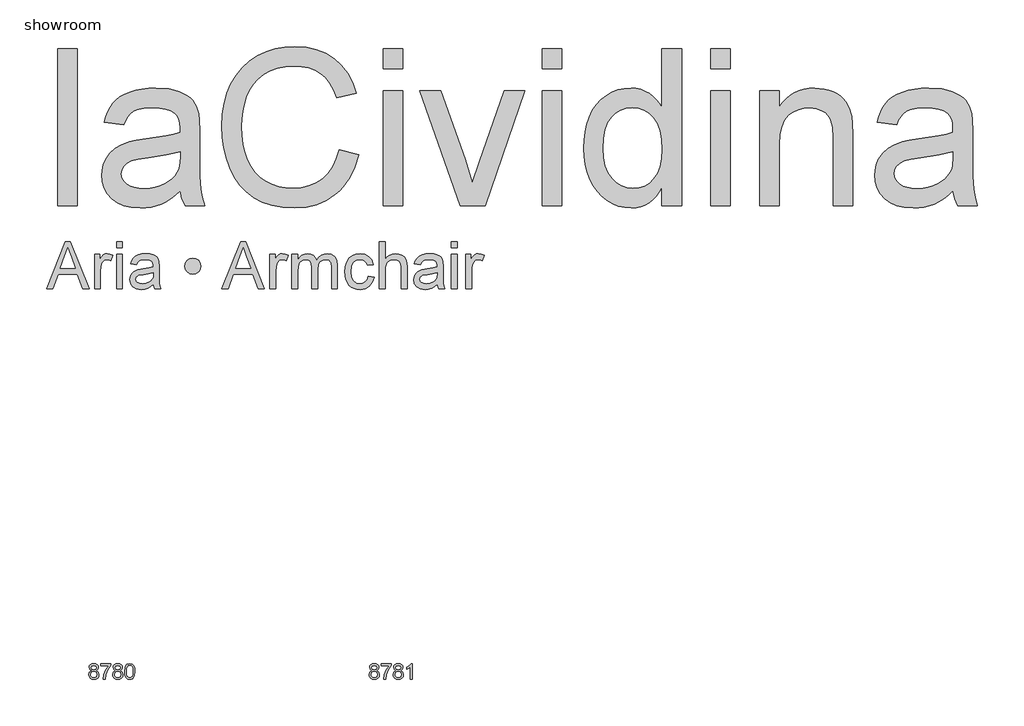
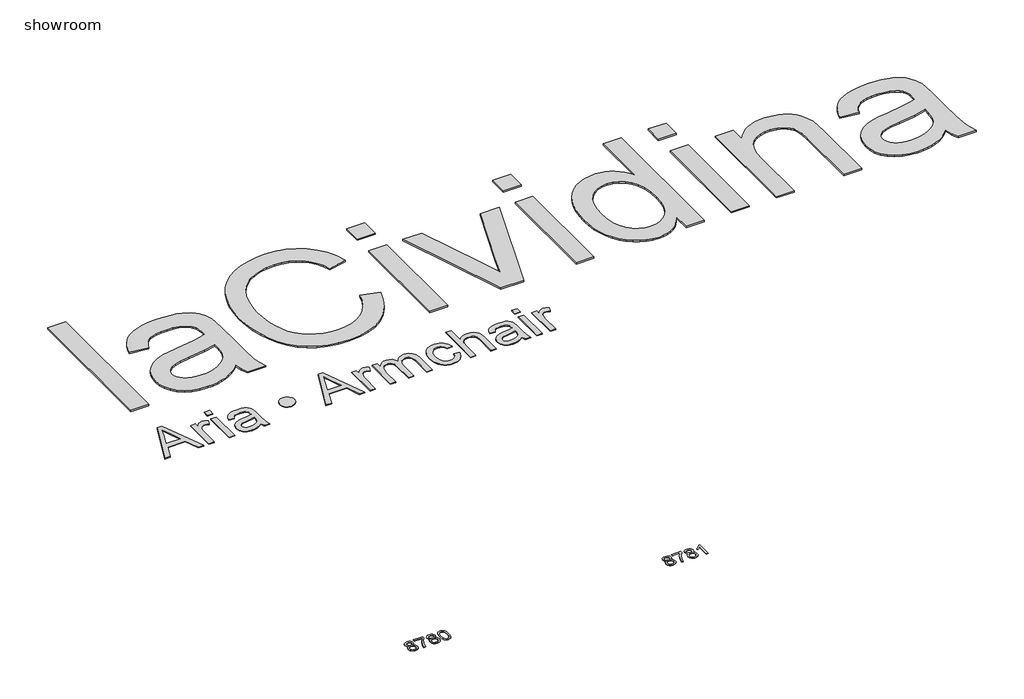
# One storey, incomplete: 4 proxies.
"""IFC4 building model written with IfcOpenShell, lengths in millimetres."""

from ifc_helpers import new_model, si_unit, origin, origin_with_axes, place, context, project, spatial, polyline, outline, extrude, element, save

model = new_model("IFC4")

# Units and contexts
model_context = context("Model", 3, world=origin())
ifc_project = project(units=[si_unit("LENGTHUNIT", "METRE", prefix="MILLI")], contexts=[model_context])

# Site, building, storey
site = spatial("IfcSite", under=ifc_project)
building = spatial("IfcBuilding", under=site)
storey = spatial("IfcBuildingStorey", under=building, Name="showroom", Elevation=0.0)

# Proxies
placement = place(None, origin())
element("IfcBuildingElementProxy", 1, Name="1000mm Arial", ObjectType="1000mm Arial", at=placement, inside=storey, context=model_context, shape_type="SweptSolid", body=[
    extrude(outline(polyline([(-1962.5649368, 4693.0029502), (-1962.5649368, 5697.5660517), (-1836.9945492, 5697.5660517), (-1836.9945492, 4693.0029502), (-1962.5649368, 4693.0029502)])), origin_with_axes(), (0.0, 0.0, 1.0), 10.0),
    extrude(outline(polyline([(-1177.7500138, 4787.180741), (-1207.5254628, 4759.2370378), (-1237.7454358, 4735.7385753), (-1268.409933, 4716.6853537), (-1299.5189542, 4702.0773728), (-1331.4250531, 4691.2401823), (-1364.4807832, 4683.499332), (-1398.6861445, 4678.8548218), (-1434.0411371, 4677.3066518), (-1489.9515362, 4681.031457), (-1538.9794762, 4692.2058726), (-1581.1249573, 4710.8298986), (-1616.3879794, 4736.903535), (-1644.2320479, 4768.7713128), (-1664.1206683, 4804.7777631), (-1676.0538405, 4844.9228858), (-1680.0315645, 4889.206681), (-1674.0228253, 4941.2619833), (-1666.5119012, 4965.4962097), (-1655.9966075, 4988.5348197), (-1628.1908601, 5029.0018391), (-1592.8435317, 5060.6396907), (-1551.3035231, 5084.5520204), (-1504.9197348, 5101.8424742), (-1459.7315631, 5111.4687197), (-1396.2719189, 5120.7270833), (-1267.8811026, 5140.592711), (-1218.3090038, 5151.8131119), (-1178.4857778, 5163.891904), (-1177.7500138, 5191.8509357), (-1179.9113205, 5222.2931708), (-1186.3952407, 5247.8916263), (-1197.2017743, 5268.6463022), (-1212.3309213, 5284.5571985), (-1238.4811998, 5300.4374379), (-1270.3336493, 5311.7804661), (-1307.8882696, 5318.586283), (-1351.1450609, 5320.8548887), (-1391.3668257, 5319.3450396), (-1425.9477332, 5314.8154926), (-1454.8877835, 5307.2662475), (-1478.1869765, 5296.6973043), (-1497.3321687, 5282.2809286), (-1513.8102164, 5263.1893859), (-1527.6211196, 5239.4226762), (-1538.7648784, 5210.9807994), (-1664.3352661, 5226.6770979), (-1654.7779984, 5262.8521608), (-1642.5382579, 5295.3484037), (-1627.6160444, 5324.1658266), (-1610.0113581, 5349.3044296), (-1588.9654423, 5371.2700504), (-1563.7195404, 5390.5685267), (-1534.2736524, 5407.1998586), (-1500.6277782, 5421.164046), (-1463.4640325, 5432.2158343), (-1423.4645297, 5440.1099688), (-1380.6292699, 5444.8464494), (-1334.9582531, 5446.4252763), (-1250.0694827, 5440.8457327), (-1214.2239808, 5433.8713033), (-1182.7777344, 5424.107102), (-1132.0406759, 5398.9378421), (-1112.4892807, 5384.2148981), (-1096.8159749, 5368.0664114), (-1073.4554682, 5329.8986544), (-1058.3109927, 5282.8404158), (-1053.7124678, 5239.4303404), (-1052.1796261, 5172.9663266), (-1052.1796261, 5016.739106), (-1050.5854708, 4880.6534246), (-1045.8030049, 4798.5850828), (-1036.3607003, 4744.6597137), (-1020.7870292, 4693.0029502), (-1146.3574169, 4693.0029502), (-1166.4682993, 4736.6582803), (-1177.7500138, 4787.180741)]), holes=[polyline([(-1177.7500138, 5038.3215164), (-1262.117618, 5017.4135563), (-1380.3303658, 4999.8165342), (-1445.4761358, 4990.1902887), (-1488.3650451, 4979.4603971), (-1516.4773609, 4965.542195), (-1537.2933504, 4946.3510176), (-1550.1692203, 4923.3583929), (-1554.4611769, 4898.0358489), (-1552.1235934, 4878.5227747), (-1545.1108428, 4860.6958264), (-1533.4229253, 4844.5550038), (-1517.0598407, 4830.1003071), (-1496.1748733, 4818.1901275), (-1470.9213071, 4809.6828564), (-1441.2991423, 4804.5784937), (-1407.3083788, 4802.8770394), (-1372.6048439, 4804.7547705), (-1339.8633463, 4810.3879635), (-1309.0838861, 4819.7766186), (-1280.2664631, 4832.9207357), (-1254.2694688, 4848.7319973), (-1231.9512944, 4866.1220858), (-1213.31194, 4885.0910012), (-1198.3514055, 4905.6387434), (-1189.6601934, 4924.0328432), (-1183.4521847, 4946.3510176), (-1178.4857778, 5002.7595902), (-1177.7500138, 5038.3215164)])]), origin_with_axes(), (0.0, 0.0, 1.0), 10.0),
    extrude(outline(polyline([(-157.4906138, 5050.0937402), (-31.9202262, 5017.7201246), (-56.7675892, 4939.6295069), (-89.8616404, 4871.395061), (-131.2023796, 4813.0167869), (-154.9652572, 4787.5237143), (-180.7898069, 4764.4946846), (-237.5049478, 4726.3499202), (-300.228828, 4699.10366), (-368.9614474, 4682.7559038), (-443.7028061, 4677.3066518), (-520.2759105, 4681.4299958), (-589.3534193, 4693.8000279), (-650.9353325, 4714.416748), (-705.02165, 4743.2801562), (-752.3558, 4779.9610568), (-793.6812108, 4824.0302542), (-828.9978824, 4875.4877482), (-858.3058147, 4934.3335391), (-881.321432, 4998.0231095), (-897.7611586, 5064.0119424), (-907.6249946, 5132.3000377), (-910.91294, 5202.8873955), (-907.195799, 5278.6251013), (-896.044376, 5349.3657433), (-877.458671, 5415.1093215), (-851.4386841, 5475.855836), (-818.566895, 5530.6012754), (-779.4257835, 5578.3416284), (-734.0153497, 5619.0768952), (-682.3355936, 5652.8070756), (-626.1416189, 5679.2562582), (-567.1885291, 5698.1485315), (-505.4763244, 5709.4838955), (-441.0050048, 5713.2623502), (-369.1837094, 5708.3725853), (-303.3251681, 5693.7032908), (-243.4293808, 5669.2544665), (-189.4963474, 5635.0261125), (-142.4151163, 5591.9226054), (-103.0747354, 5540.8483218), (-71.4752048, 5481.8032615), (-47.6165246, 5414.7874248), (-173.1869123, 5384.8663558), (-192.9605695, 5434.2468495), (-216.7196151, 5476.4383158), (-244.4640489, 5511.4407548), (-276.193871, 5539.2541665), (-312.0930223, 5560.4457022), (-352.345444, 5575.5825135), (-396.9511359, 5584.6646002), (-445.9100981, 5587.6919625), (-502.2420286, 5584.3350393), (-553.7608363, 5574.2642697), (-600.4665213, 5557.4796536), (-642.3590835, 5533.9811912), (-678.9096925, 5504.8265431), (-709.5895181, 5471.07337), (-734.3985602, 5432.721672), (-753.3368187, 5389.7714491), (-767.3393271, 5344.1694101), (-777.3411189, 5297.862264), (-783.3421939, 5250.8500107), (-785.3425523, 5203.1326502), (-782.9743119, 5143.167885), (-775.8695909, 5087.1271944), (-764.0283892, 5035.0105784), (-747.4507068, 4986.818037), (-725.8682964, 4943.5075963), (-699.0129107, 4906.0372823), (-666.8845498, 4874.4070949), (-629.4832137, 4848.6170342), (-588.6253196, 4828.6057865), (-546.1272849, 4814.3120381), (-501.9891097, 4805.7357891), (-456.2107939, 4802.8770394), (-401.6186387, 4806.7704572), (-351.3950821, 4818.4507106), (-305.5401243, 4837.9177995), (-264.0537651, 4865.171724), (-227.9170233, 4900.0898567), (-198.1109175, 4942.5495703), (-174.6354477, 4992.5508648), (-157.4906138, 5050.0937402)])), origin_with_axes(), (0.0, 0.0, 1.0), 10.0),
    extrude(outline(polyline([(125.0427585, 4693.0029502), (125.0427585, 5430.7289779), (250.6131461, 5430.7289779), (250.6131461, 4693.0029502), (125.0427585, 4693.0029502)])), origin_with_axes(), (0.0, 0.0, 1.0), 10.0),
    extrude(outline(polyline([(125.0427585, 5571.995664), (125.0427585, 5697.5660517), (250.6131461, 5697.5660517), (250.6131461, 5571.995664), (125.0427585, 5571.995664)])), origin_with_axes(), (0.0, 0.0, 1.0), 10.0),
    extrude(outline(polyline([(619.9666693, 4693.0029502), (360.4872354, 5430.7289779), (493.415263, 5430.7289779), (650.6235022, 4988.7800743), (697.9576523, 4840.1557483), (744.3107837, 4980.4414158), (902.5000416, 5430.7289779), (1035.4280692, 5430.7289779), (779.1369459, 4693.0029502), (619.9666693, 4693.0029502)])), origin_with_axes(), (0.0, 0.0, 1.0), 10.0),
    extrude(outline(polyline([(1145.3021584, 4693.0029502), (1145.3021584, 5430.7289779), (1270.8725461, 5430.7289779), (1270.8725461, 4693.0029502), (1145.3021584, 4693.0029502)])), origin_with_axes(), (0.0, 0.0, 1.0), 10.0),
    extrude(outline(polyline([(1145.3021584, 5571.995664), (1145.3021584, 5697.5660517), (1270.8725461, 5697.5660517), (1270.8725461, 5571.995664), (1145.3021584, 5571.995664)])), origin_with_axes(), (0.0, 0.0, 1.0), 10.0),
    extrude(outline(polyline([(1914.420783, 4693.0029502), (1914.420783, 4811.4609527), (1896.6283236, 4780.0185384), (1876.8508342, 4752.768446), (1855.088315, 4729.7106756), (1831.3407657, 4710.845227), (1805.6081866, 4696.1721003), (1777.8905775, 4685.6912956), (1748.1879385, 4679.4028127), (1716.5002696, 4677.3066518), (1675.0522315, 4680.3416782), (1635.320976, 4689.4467576), (1597.3065031, 4704.6218899), (1561.008813, 4725.8670751), (1527.5622082, 4752.546184), (1498.1009918, 4784.0230872), (1472.6251636, 4820.2977848), (1451.1347237, 4861.3702767), (1434.0741962, 4906.4588137), (1421.8881051, 4954.7816466), (1414.5764505, 5006.3387754), (1412.1392322, 5061.1302001), (1414.3848453, 5114.9176134), (1421.1216843, 5166.1605097), (1432.3497494, 5214.8588888), (1448.0690404, 5261.0127508), (1468.2718933, 5303.273195), (1492.9506439, 5340.2913207), (1522.105292, 5372.0671281), (1555.7358377, 5398.600617), (1592.6543288, 5419.5239054), (1631.6728129, 5434.4691115), (1672.79129, 5443.4362351), (1716.0097603, 5446.4252763), (1747.616955, 5444.2869622), (1777.4460535, 5437.87202), (1805.4970556, 5427.1804495), (1831.7699614, 5412.2122508), (1855.973531, 5393.8258152), (1877.8165245, 5372.8795341), (1897.2989418, 5349.3734075), (1914.420783, 5323.3074353), (1914.420783, 5697.5660517), (2039.9911707, 5697.5660517), (2039.9911707, 4693.0029502), (1914.420783, 4693.0029502)]), holes=[polyline([(1537.7096199, 5061.6207094), (1541.2504841, 5000.728575), (1551.8730767, 4948.0371434), (1569.5773978, 4903.5464146), (1594.3634472, 4867.2563886), (1623.9626194, 4839.0904233), (1656.1063087, 4818.9718767), (1690.7945152, 4806.9007488), (1728.0272388, 4802.8770394), (1765.4362392, 4806.7168078), (1799.917512, 4818.2361127), (1831.4710573, 4837.4349544), (1860.096875, 4864.3133326), (1883.8635848, 4899.0858454), (1900.839806, 4941.9670905), (1911.0255387, 4992.9570678), (1914.420783, 5052.0557775), (1910.9642251, 5116.8489939), (1900.5945513, 5172.4145036), (1883.3117618, 5218.7523066), (1859.1158564, 5255.8624028), (1829.8615736, 5284.2966154), (1797.4036517, 5304.6067672), (1761.7420908, 5316.7928583), (1722.8768908, 5320.8548887), (1684.9084033, 5316.9538067), (1650.2201968, 5305.2505607), (1618.8122715, 5285.7451507), (1590.6846272, 5258.4375768), (1567.5080615, 5222.7300307), (1550.9533718, 5178.024704), (1541.0205579, 5124.3215969), (1537.7096199, 5061.6207094)])]), origin_with_axes(), (0.0, 0.0, 1.0), 10.0),
    extrude(outline(polyline([(2228.3467522, 4693.0029502), (2228.3467522, 5430.7289779), (2353.9171399, 5430.7289779), (2353.9171399, 4693.0029502), (2228.3467522, 4693.0029502)])), origin_with_axes(), (0.0, 0.0, 1.0), 10.0),
    extrude(outline(polyline([(2228.3467522, 5571.995664), (2228.3467522, 5697.5660517), (2353.9171399, 5697.5660517), (2353.9171399, 5571.995664), (2228.3467522, 5571.995664)])), origin_with_axes(), (0.0, 0.0, 1.0), 10.0),
    extrude(outline(polyline([(2542.2727214, 4693.0029502), (2542.2727214, 5430.7289779), (2667.8431091, 5430.7289779), (2667.8431091, 5327.7220192), (2688.559464, 5355.5430951), (2711.4677824, 5379.6546942), (2736.5680643, 5400.0568165), (2763.8603099, 5416.7494621), (2793.3445189, 5429.7326308), (2825.0206916, 5439.0063228), (2858.8888277, 5444.570538), (2894.9489275, 5446.4252763), (2956.8450732, 5440.4471939), (2985.8387729, 5432.9745909), (3013.5295572, 5422.5129467), (3038.8674297, 5409.6217484), (3060.8023936, 5394.8604834), (3079.3344491, 5378.2291515), (3094.4635962, 5359.7277528), (3117.3029367, 5317.2067255), (3132.110187, 5267.389372), (3137.076594, 5219.7486536), (3138.7320629, 5145.9883136), (3138.7320629, 4693.0029502), (3013.1616753, 4693.0029502), (3013.1616753, 5129.0657418), (3009.544169, 5193.996914), (2998.6916501, 5240.1661044), (2990.0694158, 5257.6328349), (2978.6727382, 5273.2448271), (2964.5016172, 5287.0020809), (2947.5560528, 5298.9045963), (2907.6715131, 5315.3673156), (2861.3490386, 5320.8548887), (2823.2196026, 5317.7738769), (2787.8032964, 5308.5308418), (2755.1001198, 5293.1257833), (2725.110073, 5271.5587013), (2700.0557763, 5241.3770493), (2682.1598501, 5200.1282806), (2671.4222944, 5147.8123952), (2667.8431091, 5084.4293931), (2667.8431091, 4693.0029502), (2542.2727214, 4693.0029502)])), origin_with_axes(), (0.0, 0.0, 1.0), 10.0),
    extrude(outline(polyline([(3782.2802998, 4787.180741), (3752.5048509, 4759.2370378), (3722.2848778, 4735.7385753), (3691.6203806, 4716.6853537), (3660.5113594, 4702.0773728), (3628.6052606, 4691.2401823), (3595.5495305, 4683.499332), (3561.3441691, 4678.8548218), (3525.9891765, 4677.3066518), (3470.0787775, 4681.031457), (3421.0508374, 4692.2058726), (3378.9053563, 4710.8298986), (3343.6423343, 4736.903535), (3315.7982657, 4768.7713128), (3295.9096454, 4804.7777631), (3283.9764732, 4844.9228858), (3279.9987491, 4889.206681), (3286.0074883, 4941.2619833), (3293.5184124, 4965.4962097), (3304.0337061, 4988.5348197), (3331.8394536, 5029.0018391), (3367.1867819, 5060.6396907), (3408.7267906, 5084.5520204), (3455.1105788, 5101.8424742), (3500.2987505, 5111.4687197), (3563.7583947, 5120.7270833), (3692.149211, 5140.592711), (3741.7213099, 5151.8131119), (3781.5445358, 5163.891904), (3782.2802998, 5191.8509357), (3780.1189931, 5222.2931708), (3773.6350729, 5247.8916263), (3762.8285393, 5268.6463022), (3747.6993923, 5284.5571985), (3721.5491138, 5300.4374379), (3689.6966644, 5311.7804661), (3652.142044, 5318.586283), (3608.8852528, 5320.8548887), (3568.663488, 5319.3450396), (3534.0825804, 5314.8154926), (3505.1425301, 5307.2662475), (3481.8433371, 5296.6973043), (3462.6981449, 5282.2809286), (3446.2200972, 5263.1893859), (3432.409194, 5239.4226762), (3421.2654352, 5210.9807994), (3295.6950475, 5226.6770979), (3305.2523152, 5262.8521608), (3317.4920558, 5295.3484037), (3332.4142692, 5324.1658266), (3350.0189555, 5349.3044296), (3371.0648713, 5371.2700504), (3396.3107732, 5390.5685267), (3425.7566613, 5407.1998586), (3459.4025354, 5421.164046), (3496.5662811, 5432.2158343), (3536.5657839, 5440.1099688), (3579.4010437, 5444.8464494), (3625.0720606, 5446.4252763), (3709.960831, 5440.8457327), (3745.8063329, 5433.8713033), (3777.2525792, 5424.107102), (3827.9896377, 5398.9378421), (3847.5410329, 5384.2148981), (3863.2143388, 5368.0664114), (3886.5748455, 5329.8986544), (3901.7193209, 5282.8404158), (3906.3178459, 5239.4303404), (3907.8506875, 5172.9663266), (3907.8506875, 5016.739106), (3909.4448428, 4880.6534246), (3914.2273088, 4798.5850828), (3923.6696133, 4744.6597137), (3939.2432844, 4693.0029502), (3813.6728968, 4693.0029502), (3793.5620144, 4736.6582803), (3782.2802998, 4787.180741)]), holes=[polyline([(3782.2802998, 5038.3215164), (3697.9126956, 5017.4135563), (3579.6999478, 4999.8165342), (3514.5541778, 4990.1902887), (3471.6652686, 4979.4603971), (3443.5529528, 4965.542195), (3422.7369632, 4946.3510176), (3409.8610934, 4923.3583929), (3405.5691368, 4898.0358489), (3407.9067203, 4878.5227747), (3414.9194708, 4860.6958264), (3426.6073884, 4844.5550038), (3442.970473, 4830.1003071), (3463.8554404, 4818.1901275), (3489.1090065, 4809.6828564), (3518.7311713, 4804.5784937), (3552.7219348, 4802.8770394), (3587.4254697, 4804.7547705), (3620.1669673, 4810.3879635), (3650.9464276, 4819.7766186), (3679.7638505, 4832.9207357), (3705.7608448, 4848.7319973), (3728.0790192, 4866.1220858), (3746.7183736, 4885.0910012), (3761.6789081, 4905.6387434), (3770.3701202, 4924.0328432), (3776.5781289, 4946.3510176), (3781.5445358, 5002.7595902), (3782.2802998, 5038.3215164)])]), origin_with_axes(), (0.0, 0.0, 1.0), 10.0),
])
element("IfcBuildingElementProxy", 2, Name="100mm Arial", ObjectType="100mm Arial", at=placement, inside=storey, context=model_context, shape_type="SweptSolid", body=[
    extrude(outline(polyline([(-1746.5722616, 1708.3324023), (-1758.0133916, 1716.1315006), (-1761.7289998, 1728.2716064), (-1759.7056488, 1738.0879243), (-1753.6355959, 1746.1997223), (-1744.1994227, 1751.6443759), (-1732.077711, 1753.4592604), (-1719.8824228, 1751.6014563), (-1710.3236223, 1746.0280441), (-1704.1432048, 1737.7874874), (-1702.0830656, 1727.9282499), (-1705.7496228, 1716.0947124), (-1716.8719218, 1708.3324023), (-1703.5178054, 1698.4854276), (-1698.9438059, 1682.2373061), (-1701.2124116, 1670.2320903), (-1708.0182285, 1660.3115392), (-1718.5273908, 1653.6528751), (-1731.9060327, 1651.4333204), (-1745.2846746, 1653.6620721), (-1755.7938369, 1660.3483274), (-1762.5996538, 1670.3639147), (-1764.8682595, 1682.5806626), (-1760.110319, 1699.2089288), (-1746.5722616, 1708.3324023)]), holes=[polyline([(-1749.171961, 1727.9037244), (-1744.7205889, 1718.044487), (-1731.7588799, 1714.2185142), (-1719.0546883, 1718.0199615), (-1714.6401044, 1727.3396387), (-1719.2018411, 1736.9904097), (-1731.9060327, 1740.9022216), (-1744.6470125, 1737.0762489), (-1749.171961, 1727.9037244)]), polyline([(-1752.3112207, 1683.022121), (-1750.2142933, 1673.5675538), (-1742.7953398, 1666.4919567), (-1731.8079308, 1663.9903591), (-1723.2608058, 1665.3055373), (-1716.8473964, 1669.2510717), (-1711.5008447, 1682.6297136), (-1717.0190746, 1696.2658729), (-1723.5796369, 1700.3125748), (-1732.2248638, 1701.6614755), (-1740.6524271, 1700.3309689), (-1747.0014572, 1696.3394493), (-1752.3112207, 1683.022121)])]), origin_with_axes(), (0.0, 0.0, 1.0), 2.0),
    extrude(outline(polyline([(-1687.956397, 1739.3325918), (-1687.956397, 1751.8896305), (-1622.0319435, 1751.8896305), (-1622.0319435, 1741.7360875), (-1640.7326116, 1714.7212863), (-1655.0432212, 1680.2997943), (-1659.7030598, 1653.0029502), (-1672.2600985, 1653.0029502), (-1667.2691661, 1681.3298638), (-1653.5716932, 1713.3478602), (-1634.5889822, 1739.3325918), (-1687.956397, 1739.3325918)])), origin_with_axes(), (0.0, 0.0, 1.0), 2.0),
    extrude(outline(polyline([(-1592.7485367, 1708.3324023), (-1604.1896667, 1716.1315006), (-1607.9052749, 1728.2716064), (-1605.8819239, 1738.0879243), (-1599.811871, 1746.1997223), (-1590.3756978, 1751.6443759), (-1578.253986, 1753.4592604), (-1566.0586979, 1751.6014563), (-1556.4998974, 1746.0280441), (-1550.3194799, 1737.7874874), (-1548.2593407, 1727.9282499), (-1551.9258979, 1716.0947124), (-1563.0481969, 1708.3324023), (-1549.6940805, 1698.4854276), (-1545.120081, 1682.2373061), (-1547.3886866, 1670.2320903), (-1554.1945036, 1660.3115392), (-1564.7036659, 1653.6528751), (-1578.0823078, 1651.4333204), (-1591.4609497, 1653.6620721), (-1601.970112, 1660.3483274), (-1608.7759289, 1670.3639147), (-1611.0445345, 1682.5806626), (-1606.2865941, 1699.2089288), (-1592.7485367, 1708.3324023)]), holes=[polyline([(-1598.4874958, 1683.022121), (-1596.3905684, 1673.5675538), (-1588.9716148, 1666.4919567), (-1577.9842059, 1663.9903591), (-1569.4370809, 1665.3055373), (-1563.0236714, 1669.2510717), (-1557.6771198, 1682.6297136), (-1563.1953497, 1696.2658729), (-1569.755912, 1700.3125748), (-1578.4011388, 1701.6614755), (-1586.8287022, 1700.3309689), (-1593.1777323, 1696.3394493), (-1598.4874958, 1683.022121)]), polyline([(-1595.3482361, 1727.9037244), (-1590.8968639, 1718.044487), (-1577.935155, 1714.2185142), (-1565.2309634, 1718.0199615), (-1560.8163795, 1727.3396387), (-1565.3781162, 1736.9904097), (-1578.0823078, 1740.9022216), (-1590.8232875, 1737.0762489), (-1595.3482361, 1727.9037244)])]), origin_with_axes(), (0.0, 0.0, 1.0), 2.0),
    extrude(outline(polyline([(-1534.1326721, 1702.4217649), (-1530.4415894, 1731.325027), (-1519.4787059, 1747.9900814), (-1501.1704453, 1753.4592604), (-1486.5042164, 1750.2218988), (-1476.3751988, 1740.8899589), (-1470.4890869, 1726.0275263), (-1468.2082186, 1702.4217649), (-1471.862513, 1673.6411302), (-1482.7886083, 1656.9392876), (-1491.0199679, 1652.8098122), (-1501.1704453, 1651.4333204), (-1514.2179934, 1653.8245533), (-1524.1262818, 1660.9982522), (-1531.6310745, 1677.9882691), (-1534.1326721, 1702.4217649)]), holes=[polyline([(-1521.5756333, 1702.4462904), (-1520.1041053, 1682.6940929), (-1515.6895214, 1671.2621599), (-1509.1166964, 1665.8083093), (-1501.1704453, 1663.9903591), (-1493.2241942, 1665.8144407), (-1486.6513692, 1671.2866854), (-1482.2367853, 1682.7247497), (-1480.7652573, 1702.4462904), (-1482.1877344, 1721.7539638), (-1486.4551655, 1733.2748016), (-1493.0157278, 1738.9953666), (-1501.3175981, 1740.9022216), (-1509.1780101, 1739.2222272), (-1515.4933177, 1734.1822438), (-1520.0550544, 1721.9440361), (-1521.5756333, 1702.4462904)])]), origin_with_axes(), (0.0, 0.0, 1.0), 2.0),
])
element("IfcBuildingElementProxy", 3, Name="100mm Arial", ObjectType="100mm Arial", at=placement, inside=storey, context=model_context, shape_type="SweptSolid", body=[
    extrude(outline(polyline([(53.4277384, 1708.3324023), (41.9866084, 1716.1315006), (38.2710002, 1728.2716064), (40.2943512, 1738.0879243), (46.3644041, 1746.1997223), (55.8005773, 1751.6443759), (67.922289, 1753.4592604), (80.1175772, 1751.6014563), (89.6763777, 1746.0280441), (95.8567952, 1737.7874874), (97.9169344, 1727.9282499), (94.2503772, 1716.0947124), (83.1280782, 1708.3324023), (96.4821946, 1698.4854276), (101.0561941, 1682.2373061), (98.7875884, 1670.2320903), (91.9817715, 1660.3115392), (81.4726092, 1653.6528751), (68.0939673, 1651.4333204), (54.7153254, 1653.6620721), (44.2061631, 1660.3483274), (37.4003462, 1670.3639147), (35.1317405, 1682.5806626), (39.889681, 1699.2089288), (53.4277384, 1708.3324023)]), holes=[polyline([(50.828039, 1727.9037244), (55.2794111, 1718.044487), (68.2411201, 1714.2185142), (80.9453117, 1718.0199615), (85.3598956, 1727.3396387), (80.7981589, 1736.9904097), (68.0939673, 1740.9022216), (55.3529875, 1737.0762489), (50.828039, 1727.9037244)]), polyline([(47.6887793, 1683.022121), (49.7857067, 1673.5675538), (57.2046602, 1666.4919567), (68.1920692, 1663.9903591), (76.7391942, 1665.3055373), (83.1526036, 1669.2510717), (88.4991553, 1682.6297136), (82.9809254, 1696.2658729), (76.4203631, 1700.3125748), (67.7751362, 1701.6614755), (59.3475729, 1700.3309689), (52.9985428, 1696.3394493), (47.6887793, 1683.022121)])]), origin_with_axes(), (0.0, 0.0, 1.0), 2.0),
    extrude(outline(polyline([(112.043603, 1739.3325918), (112.043603, 1751.8896305), (177.9680565, 1751.8896305), (177.9680565, 1741.7360875), (159.2673884, 1714.7212863), (144.9567788, 1680.2997943), (140.2969402, 1653.0029502), (127.7399015, 1653.0029502), (132.7308339, 1681.3298638), (146.4283068, 1713.3478602), (165.4110178, 1739.3325918), (112.043603, 1739.3325918)])), origin_with_axes(), (0.0, 0.0, 1.0), 2.0),
    extrude(outline(polyline([(207.2514633, 1708.3324023), (195.8103333, 1716.1315006), (192.0947251, 1728.2716064), (194.1180761, 1738.0879243), (200.188129, 1746.1997223), (209.6243022, 1751.6443759), (221.746014, 1753.4592604), (233.9413021, 1751.6014563), (243.5001026, 1746.0280441), (249.6805201, 1737.7874874), (251.7406593, 1727.9282499), (248.0741021, 1716.0947124), (236.9518031, 1708.3324023), (250.3059195, 1698.4854276), (254.879919, 1682.2373061), (252.6113134, 1670.2320903), (245.8054964, 1660.3115392), (235.2963341, 1653.6528751), (221.9176922, 1651.4333204), (208.5390503, 1653.6620721), (198.029888, 1660.3483274), (191.2240711, 1670.3639147), (188.9554655, 1682.5806626), (193.7134059, 1699.2089288), (207.2514633, 1708.3324023)]), holes=[polyline([(201.5125042, 1683.022121), (203.6094316, 1673.5675538), (211.0283852, 1666.4919567), (222.0157941, 1663.9903591), (230.5629191, 1665.3055373), (236.9763286, 1669.2510717), (242.3228802, 1682.6297136), (236.8046503, 1696.2658729), (230.244088, 1700.3125748), (221.5988612, 1701.6614755), (213.1712978, 1700.3309689), (206.8222677, 1696.3394493), (201.5125042, 1683.022121)]), polyline([(204.6517639, 1727.9037244), (209.1031361, 1718.044487), (222.064845, 1714.2185142), (234.7690366, 1718.0199615), (239.1836205, 1727.3396387), (234.6218838, 1736.9904097), (221.9176922, 1740.9022216), (209.1767125, 1737.0762489), (204.6517639, 1727.9037244)])]), origin_with_axes(), (0.0, 0.0, 1.0), 2.0),
    extrude(outline(polyline([(312.9562233, 1653.0029502), (300.3991845, 1653.0029502), (300.3991845, 1731.2882388), (288.5043333, 1722.8146902), (275.285107, 1716.4748571), (275.285107, 1728.3451828), (293.6914695, 1740.0928812), (304.8628194, 1753.4592604), (312.9562233, 1753.4592604), (312.9562233, 1653.0029502)])), origin_with_axes(), (0.0, 0.0, 1.0), 2.0),
])
element("IfcBuildingElementProxy", 4, Name="300mm Arial", ObjectType="300mm Arial", at=placement, inside=storey, context=model_context, shape_type="SweptSolid", body=[
    extrude(outline(polyline([(-2035.1264432, 4158.0029502), (-1914.8290308, 4459.3718807), (-1882.7497208, 4459.3718807), (-1762.4523084, 4158.0029502), (-1802.2571402, 4158.0029502), (-1836.7644714, 4252.180741), (-1960.8878566, 4252.180741), (-1995.3216113, 4158.0029502), (-2035.1264432, 4158.0029502)]), holes=[polyline([(-1947.0554935, 4289.8518573), (-1850.523258, 4289.8518573), (-1877.6729492, 4363.9432911), (-1898.7893758, 4421.7007644), (-1917.5513575, 4370.4180142), (-1947.0554935, 4289.8518573)])]), origin_with_axes(), (0.0, 0.0, 1.0), 5.0),
    extrude(outline(polyline([(-1726.9149076, 4158.0029502), (-1726.9149076, 4379.3207585), (-1693.9526809, 4379.3207585), (-1693.9526809, 4346.5792609), (-1681.7757868, 4365.5619719), (-1670.555386, 4376.7455846), (-1659.2981969, 4382.2086322), (-1647.0109383, 4384.0296481), (-1628.2489565, 4381.1233803), (-1609.1926692, 4372.404577), (-1621.7742334, 4338.6330099), (-1635.0179852, 4344.4271513), (-1648.2617371, 4346.3585318), (-1659.5097291, 4344.5007277), (-1669.5621046, 4338.9273154), (-1677.6830996, 4330.0613594), (-1683.1369502, 4318.3259237), (-1687.717081, 4297.2830736), (-1689.2437913, 4274.3272371), (-1689.2437913, 4158.0029502), (-1726.9149076, 4158.0029502)])), origin_with_axes(), (0.0, 0.0, 1.0), 5.0),
    extrude(outline(polyline([(-1585.6482215, 4421.7007644), (-1585.6482215, 4459.3718807), (-1547.9771052, 4459.3718807), (-1547.9771052, 4421.7007644), (-1585.6482215, 4421.7007644)])), origin_with_axes(), (0.0, 0.0, 1.0), 5.0),
    extrude(outline(polyline([(-1585.6482215, 4158.0029502), (-1585.6482215, 4379.3207585), (-1547.9771052, 4379.3207585), (-1547.9771052, 4158.0029502), (-1585.6482215, 4158.0029502)])), origin_with_axes(), (0.0, 0.0, 1.0), 5.0),
    extrude(outline(polyline([(-1350.2037446, 4186.2562875), (-1368.2023712, 4170.8236378), (-1386.7344267, 4160.725277), (-1406.2229754, 4155.1518648), (-1427.0910816, 4153.2940607), (-1458.5725833, 4157.7638269), (-1481.7951342, 4171.1731256), (-1496.1149409, 4191.5353941), (-1500.8882098, 4216.8640694), (-1499.085588, 4232.4806601), (-1493.6777227, 4246.6625111), (-1485.3359984, 4258.8026169), (-1474.7317999, 4268.2939724), (-1448.3546609, 4280.6548074), (-1415.7603161, 4286.3201901), (-1377.2430712, 4292.2798785), (-1350.4244738, 4299.2696364), (-1350.2037446, 4307.6573459), (-1352.7973126, 4324.469553), (-1360.5780168, 4335.4692247), (-1377.9788352, 4343.636205), (-1402.2222587, 4346.3585318), (-1424.6630604, 4344.5467129), (-1440.3348334, 4339.1112564), (-1451.0218053, 4329.0588809), (-1458.5082039, 4313.396305), (-1496.1793202, 4318.1051945), (-1489.6402178, 4338.7065863), (-1479.8821479, 4354.893394), (-1465.9946025, 4367.2726232), (-1447.0670739, 4376.451279), (-1423.9180993, 4382.1350558), (-1397.3662163, 4384.0296481), (-1371.8995852, 4382.355785), (-1351.7120607, 4377.3341957), (-1336.4909432, 4369.7834178), (-1325.9235329, 4360.5219886), (-1318.9153809, 4349.0716615), (-1314.3720382, 4334.9541899), (-1312.5326283, 4301.9919631), (-1312.5326283, 4255.1237969), (-1310.6196419, 4189.67759), (-1303.1148492, 4158.0029502), (-1340.7859655, 4158.0029502), (-1350.2037446, 4186.2562875)]), holes=[polyline([(-1350.2037446, 4261.5985201), (-1410.9778502, 4250.0470254), (-1443.3882539, 4243.9401843), (-1458.0667455, 4234.0073704), (-1463.2170935, 4219.5128198), (-1460.4119933, 4208.3108131), (-1451.9966926, 4199.1321573), (-1438.1551326, 4193.0069221), (-1419.0712541, 4190.965177), (-1398.8377443, 4193.2184542), (-1380.9586794, 4199.9782859), (-1366.4641287, 4209.9386909), (-1356.3841621, 4221.7936882), (-1351.9143958, 4234.0073704), (-1350.4244738, 4250.9299422), (-1350.2037446, 4261.5985201)])]), origin_with_axes(), (0.0, 0.0, 1.0), 5.0),
    extrude(outline(polyline([(-1147.7214944, 4304.0521023), (-1143.9139158, 4323.9453212), (-1132.4911798, 4340.6563608), (-1115.752549, 4351.9963233), (-1095.9972859, 4355.7763108), (-1076.1316582, 4351.9963233), (-1059.3562392, 4340.6563608), (-1047.9335032, 4323.9453212), (-1044.1259246, 4304.0521023), (-1047.9335032, 4284.1864746), (-1059.3562392, 4267.4110556), (-1076.1316582, 4255.9883196), (-1095.9972859, 4252.180741), (-1115.752549, 4255.9883196), (-1132.4911798, 4267.4110556), (-1143.9139158, 4284.1864746), (-1147.7214944, 4304.0521023)])), origin_with_axes(), (0.0, 0.0, 1.0), 5.0),
    extrude(outline(polyline([(-909.7018435, 4158.0029502), (-789.4044311, 4459.3718807), (-757.3251211, 4459.3718807), (-637.0277087, 4158.0029502), (-676.8325406, 4158.0029502), (-711.3398717, 4252.180741), (-835.4632569, 4252.180741), (-869.8970117, 4158.0029502), (-909.7018435, 4158.0029502)]), holes=[polyline([(-821.6308939, 4289.8518573), (-725.0986584, 4289.8518573), (-752.2483496, 4363.9432911), (-773.3647761, 4421.7007644), (-792.1267579, 4370.4180142), (-821.6308939, 4289.8518573)])]), origin_with_axes(), (0.0, 0.0, 1.0), 5.0),
    extrude(outline(polyline([(-601.490308, 4158.0029502), (-601.490308, 4379.3207585), (-568.5280812, 4379.3207585), (-568.5280812, 4346.5792609), (-556.3511872, 4365.5619719), (-545.1307863, 4376.7455846), (-533.8735973, 4382.2086322), (-521.5863386, 4384.0296481), (-502.8243569, 4381.1233803), (-483.7680695, 4372.404577), (-496.3496338, 4338.6330099), (-509.5933856, 4344.4271513), (-522.8371374, 4346.3585318), (-534.0851294, 4344.5007277), (-544.1375049, 4338.9273154), (-552.2585, 4330.0613594), (-557.7123506, 4318.3259237), (-562.2924814, 4297.2830736), (-563.8191917, 4274.3272371), (-563.8191917, 4158.0029502), (-601.490308, 4158.0029502)])), origin_with_axes(), (0.0, 0.0, 1.0), 5.0),
    extrude(outline(polyline([(-460.2236218, 4158.0029502), (-460.2236218, 4379.3207585), (-422.5525055, 4379.3207585), (-422.5525055, 4342.900441), (-411.2217401, 4359.6298747), (-396.6536131, 4372.7356708), (-379.3447652, 4381.2061537), (-359.7918371, 4384.0296481), (-338.8409575, 4381.1509714), (-322.0471444, 4372.5149416), (-309.5023684, 4358.6917756), (-301.2985999, 4340.2516906), (-287.5674044, 4359.404547), (-271.9048285, 4373.0851587), (-254.3108721, 4381.2935257), (-234.7855352, 4384.0296481), (-206.4678186, 4379.4771084), (-185.526136, 4365.8194893), (-172.5858869, 4342.6889088), (-168.2724705, 4309.717485), (-168.2724705, 4158.0029502), (-205.9435868, 4158.0029502), (-205.9435868, 4293.5306772), (-209.4384657, 4324.9845878), (-214.3496904, 4333.6574059), (-222.0936064, 4340.4724198), (-232.0540114, 4344.8870038), (-243.6147031, 4346.3585318), (-264.0229568, 4342.5877413), (-280.66042, 4331.2753699), (-291.724471, 4311.6488655), (-295.412488, 4282.9356758), (-295.412488, 4158.0029502), (-333.0836043, 4158.0029502), (-333.0836043, 4297.724532), (-335.2633051, 4319.0248995), (-341.8024076, 4334.2184259), (-353.307917, 4343.3235053), (-370.3868386, 4346.3585318), (-384.8997833, 4344.3351808), (-398.2722938, 4338.2651279), (-409.3087537, 4328.2955258), (-416.8135464, 4314.5735274), (-421.1177657, 4295.5356341), (-422.5525055, 4269.6183476), (-422.5525055, 4158.0029502), (-460.2236218, 4158.0029502)])), origin_with_axes(), (0.0, 0.0, 1.0), 5.0),
    extrude(outline(polyline([(29.5008901, 4238.0540724), (67.1720065, 4233.3451828), (56.6689755, 4199.8403301), (36.9321065, 4174.5208518), (9.8192034, 4158.6007585), (-22.8119296, 4153.2940607), (-43.9398524, 4155.144967), (-62.8834759, 4160.6976858), (-79.6428, 4169.9522173), (-94.2178248, 4182.9085613), (-106.0153406, 4199.3229961), (-114.4421375, 4218.9517998), (-119.4982157, 4241.7949724), (-121.1835751, 4267.852514), (-118.3048985, 4301.3757608), (-109.6688686, 4330.4292414), (-95.1375298, 4353.8909156), (-74.5729263, 4370.6387434), (-49.9708179, 4380.6819219), (-23.3269644, 4384.0296481), (8.5040253, 4379.4311231), (33.9522623, 4365.6355483), (52.2084063, 4343.3786876), (62.4631169, 4313.396305), (24.7920006, 4308.6874154), (17.9585925, 4325.1225436), (7.3176058, 4336.9039645), (-6.5423483, 4343.9948899), (-23.0326588, 4346.3585318), (-47.3772498, 4341.7048245), (-66.7002516, 4327.7437028), (-79.309407, 4303.7210085), (-83.5124588, 4268.8825836), (-79.4013775, 4233.5751091), (-67.0681336, 4209.4696413), (-48.0946197, 4195.5912931), (-24.0627283, 4190.965177), (-4.5557856, 4193.8530507), (11.4378842, 4202.5166716), (23.0721523, 4217.1767691), (29.5008901, 4238.0540724)])), origin_with_axes(), (0.0, 0.0, 1.0), 5.0),
    extrude(outline(polyline([(100.1342332, 4158.0029502), (100.1342332, 4459.3718807), (137.8053495, 4459.3718807), (137.8053495, 4348.5658237), (151.6423111, 4364.0812469), (167.1807268, 4375.163692), (184.4205968, 4381.813159), (203.3619211, 4384.0296481), (226.1154225, 4381.6108239), (245.6683505, 4374.3543516), (261.064212, 4362.8304481), (271.3465138, 4347.6093305), (277.1406552, 4326.6952391), (279.0720357, 4298.092414), (279.0720357, 4158.0029502), (241.4009194, 4158.0029502), (241.4009194, 4294.1928648), (238.4026811, 4317.7741007), (229.4079663, 4333.9241203), (214.9134157, 4343.2499289), (195.41567, 4346.3585318), (179.4955766, 4344.2616044), (164.5503706, 4337.9708223), (152.1711414, 4328.0931907), (143.9489788, 4315.235715), (139.3412569, 4298.1475963), (137.8053495, 4275.5780359), (137.8053495, 4158.0029502), (100.1342332, 4158.0029502)])), origin_with_axes(), (0.0, 0.0, 1.0), 5.0),
    extrude(outline(polyline([(472.1365067, 4186.2562875), (454.1378801, 4170.8236378), (435.6058246, 4160.725277), (416.1172759, 4155.1518648), (395.2491698, 4153.2940607), (363.767668, 4157.7638269), (340.5451171, 4171.1731256), (326.2253104, 4191.5353941), (321.4520415, 4216.8640694), (323.2546633, 4232.4806601), (328.6625286, 4246.6625111), (337.0042529, 4258.8026169), (347.6084514, 4268.2939724), (373.9855904, 4280.6548074), (406.5799352, 4286.3201901), (445.0971801, 4292.2798785), (471.9157775, 4299.2696364), (472.1365067, 4307.6573459), (469.5429387, 4324.469553), (461.7622345, 4335.4692247), (444.3614161, 4343.636205), (420.1179926, 4346.3585318), (397.6771909, 4344.5467129), (382.0054179, 4339.1112564), (371.318446, 4329.0588809), (363.8320474, 4313.396305), (326.1609311, 4318.1051945), (332.7000335, 4338.7065863), (342.4581034, 4354.893394), (356.3456488, 4367.2726232), (375.2731774, 4376.451279), (398.422152, 4382.1350558), (424.974035, 4384.0296481), (450.4406661, 4382.355785), (470.6281906, 4377.3341957), (485.8493081, 4369.7834178), (496.4167184, 4360.5219886), (503.4248704, 4349.0716615), (507.9682131, 4334.9541899), (509.8076231, 4301.9919631), (509.8076231, 4255.1237969), (511.7206094, 4189.67759), (519.2254021, 4158.0029502), (481.5542858, 4158.0029502), (472.1365067, 4186.2562875)]), holes=[polyline([(472.1365067, 4261.5985201), (411.3624011, 4250.0470254), (378.9519974, 4243.9401843), (364.2735058, 4234.0073704), (359.1231578, 4219.5128198), (361.928258, 4208.3108131), (370.3435587, 4199.1321573), (384.1851187, 4193.0069221), (403.2689972, 4190.965177), (423.502507, 4193.2184542), (441.3815719, 4199.9782859), (455.8761226, 4209.9386909), (465.9560892, 4221.7936882), (470.4258555, 4234.0073704), (471.9157775, 4250.9299422), (472.1365067, 4261.5985201)])]), origin_with_axes(), (0.0, 0.0, 1.0), 5.0),
    extrude(outline(polyline([(561.605408, 4158.0029502), (561.605408, 4379.3207585), (599.2765243, 4379.3207585), (599.2765243, 4158.0029502), (561.605408, 4158.0029502)])), origin_with_axes(), (0.0, 0.0, 1.0), 5.0),
    extrude(outline(polyline([(561.605408, 4421.7007644), (561.605408, 4459.3718807), (599.2765243, 4459.3718807), (599.2765243, 4421.7007644), (561.605408, 4421.7007644)])), origin_with_axes(), (0.0, 0.0, 1.0), 5.0),
    extrude(outline(polyline([(655.7831987, 4158.0029502), (655.7831987, 4379.3207585), (688.7454255, 4379.3207585), (688.7454255, 4346.5792609), (700.9223195, 4365.5619719), (712.1427204, 4376.7455846), (723.3999095, 4382.2086322), (735.6871681, 4384.0296481), (754.4491498, 4381.1233803), (773.5054372, 4372.404577), (760.923873, 4338.6330099), (747.6801211, 4344.4271513), (734.4363693, 4346.3585318), (723.1883773, 4344.5007277), (713.1360018, 4338.9273154), (705.0150067, 4330.0613594), (699.5611562, 4318.3259237), (694.9810253, 4297.2830736), (693.454315, 4274.3272371), (693.454315, 4158.0029502), (655.7831987, 4158.0029502)])), origin_with_axes(), (0.0, 0.0, 1.0), 5.0),
])

save(model, "model.ifc")
